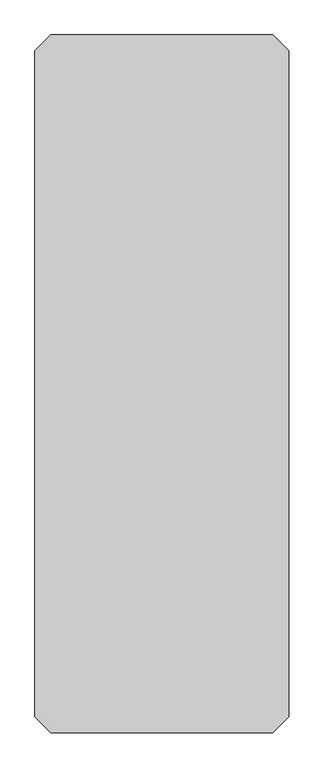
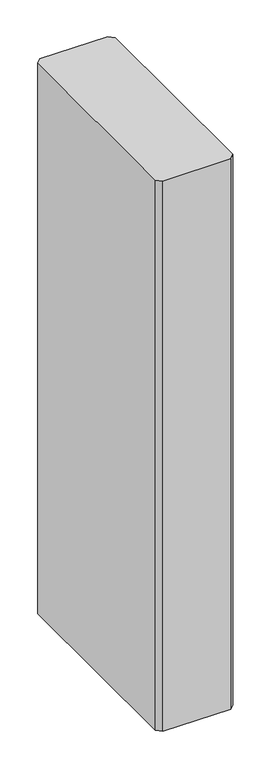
"""IFC4 building model written with IfcOpenShell, lengths in millimetres: column geometry, ENG - Diaphragm : ENG - Diaphragm."""

import ifcopenshell
import ifcopenshell.guid

model = None  # the IFC model being written
_history = None  # IfcOwnerHistory: only IFC2X3 demands one
_inside = {}  # id of a spatial element -> (the spatial element, [elements in it])
_under = {}  # id of a project, library or spatial element -> (it, [spatial elements below it])
_declared = {}  # id of a project -> (the project, [libraries it declares])
_typed = {}  # id of a type object -> (the type object, [elements of that type])
_made_of = {}  # id of a material, layer set ... -> (it, [elements and type objects made of it])


def new_model(schema):
    """Start an empty IFC model of exactly this schema.

    Asked for "IFC4X3", IfcOpenShell would pick the latest addendum, in which some entities
    have other attributes; the version numbers below select the first issue.
    IFC2X3 requires an IfcOwnerHistory on every rooted entity: one is made here for all.
    """
    global model, _history
    if schema == "IFC4X3":
        model = ifcopenshell.file(schema_version=(4, 3, 0, 0))
    else:
        model = ifcopenshell.file(schema=schema)
    _inside.clear()
    _under.clear()
    _declared.clear()
    _typed.clear()
    _made_of.clear()
    _history = None
    if model.schema == "IFC2X3":
        org = make("IfcOrganization", Name="unknown")
        user = make(
            "IfcPersonAndOrganization",
            ThePerson=make("IfcPerson", FamilyName="unknown"),
            TheOrganization=org,
        )
        app = make(
            "IfcApplication",
            ApplicationDeveloper=org,
            Version="unknown",
            ApplicationFullName="unknown",
            ApplicationIdentifier="unknown",
        )
        _history = make(
            "IfcOwnerHistory",
            OwningUser=user,
            OwningApplication=app,
            ChangeAction="ADDED",
            CreationDate=0,
        )
    return model


def make(cls, **values):
    """One entity of the class cls with the attributes given. An attribute that is None is left unset."""
    return model.create_entity(
        cls, **{name: value for name, value in values.items() if value is not None}
    )


def rooted(cls, **values):
    """An entity with a GlobalId (a new one), such as an element, a storey or a relation."""
    return make(cls, GlobalId=ifcopenshell.guid.new(), OwnerHistory=_history, **values)


def si_unit(unit_type, name, prefix=None):
    """IfcSIUnit, for example si_unit("LENGTHUNIT", "METRE", prefix="MILLI")."""
    return make("IfcSIUnit", UnitType=unit_type, Prefix=prefix, Name=name)


def assignment(units):
    """IfcUnitAssignment: the units of a project."""
    return None if units is None else make("IfcUnitAssignment", Units=units)


def point(xyz):
    """IfcCartesianPoint."""
    return None if xyz is None else make("IfcCartesianPoint", Coordinates=xyz)


def direction(xyz):
    """IfcDirection."""
    return None if xyz is None else make("IfcDirection", DirectionRatios=xyz)


def frame(location, z_axis=None, x_axis=None):
    """IfcAxis2Placement3D, a coordinate frame: its origin and axes. An axis left out is left unset."""
    return make(
        "IfcAxis2Placement3D",
        Location=point(location),
        Axis=direction(z_axis),
        RefDirection=direction(x_axis),
    )


def origin():
    """The frame at (0, 0, 0) with its axes left unset."""
    return frame((0.0, 0.0, 0.0))


def place(relative_to, where):
    """IfcLocalPlacement: puts the frame where relative to a parent placement (None: the world)."""
    return make(
        "IfcLocalPlacement", PlacementRelTo=relative_to, RelativePlacement=where
    )


def context(
    kind, dimensions, precision=None, world=None, true_north=None, identifier=None
):
    """IfcGeometricRepresentationContext, for example the 3D "Model" context."""
    return make(
        "IfcGeometricRepresentationContext",
        ContextIdentifier=identifier,
        ContextType=kind,
        CoordinateSpaceDimension=dimensions,
        Precision=precision,
        WorldCoordinateSystem=world,
        TrueNorth=true_north,
    )


def project(units=None, contexts=None):
    """IfcProject with its units and contexts."""
    return rooted(
        "IfcProject",
        Name="project",
        RepresentationContexts=contexts,
        UnitsInContext=assignment(units),
    )


def spatial(cls, under=None, at=None, **own):
    """A site, building, storey or space (cls), placed at a placement, below another one or the project."""
    s = rooted(cls, ObjectPlacement=at, **own)
    if under is not None:
        _under.setdefault(under.id(), (under, []))[1].append(s)
    return s


def polyline(points):
    """IfcPolyline through the points."""
    return make("IfcPolyline", Points=[point(p) for p in points])


def outline(outer, holes=None, kind="AREA"):
    """IfcArbitraryClosedProfileDef: a profile drawn as a closed curve; with holes, ...WithVoids."""
    if holes is None:
        return make("IfcArbitraryClosedProfileDef", ProfileType=kind, OuterCurve=outer)
    return make(
        "IfcArbitraryProfileDefWithVoids",
        ProfileType=kind,
        OuterCurve=outer,
        InnerCurves=holes,
    )


def extrude(swept, where, along, depth):
    """IfcExtrudedAreaSolid: the profile swept, set in the frame where, extruded along a direction by depth."""
    return make(
        "IfcExtrudedAreaSolid",
        SweptArea=swept,
        Position=where,
        ExtrudedDirection=direction(along),
        Depth=depth,
    )


def shape(context_of_items, identifier, shape_type, items):
    """IfcShapeRepresentation: the items that make up one representation, for example the "Body"."""
    return make(
        "IfcShapeRepresentation",
        ContextOfItems=context_of_items,
        RepresentationIdentifier=identifier,
        RepresentationType=shape_type,
        Items=items,
    )


def source(mapping_origin, context_of_items, identifier, shape_type, items):
    """IfcRepresentationMap: a shape defined once, which mapped items show again and again."""
    return make(
        "IfcRepresentationMap",
        MappingOrigin=mapping_origin,
        MappedRepresentation=shape(context_of_items, identifier, shape_type, items),
    )


def transform(
    local_origin,
    x_axis=None,
    y_axis=None,
    z_axis=None,
    scale=None,
    scale2=None,
    scale3=None,
    uniform=True,
):
    """IfcCartesianTransformationOperator3D, or its non-uniform kind. x_axis, y_axis, z_axis: its Axis1, 2, 3."""
    if uniform:
        return make(
            "IfcCartesianTransformationOperator3D",
            Axis1=direction(x_axis),
            Axis2=direction(y_axis),
            LocalOrigin=point(local_origin),
            Scale=scale,
            Axis3=direction(z_axis),
        )
    return make(
        "IfcCartesianTransformationOperator3DnonUniform",
        Axis1=direction(x_axis),
        Axis2=direction(y_axis),
        LocalOrigin=point(local_origin),
        Scale=scale,
        Axis3=direction(z_axis),
        Scale2=scale2,
        Scale3=scale3,
    )


def mapped(mapping_source, mapping_target):
    """IfcMappedItem: shows the shape of a source again, moved by a transform."""
    return make(
        "IfcMappedItem", MappingSource=mapping_source, MappingTarget=mapping_target
    )


def made_of(thing, what):
    """Note that an element or type object is made of a material, layer set ...; save() writes the relation."""
    if what is not None:
        _made_of.setdefault(what.id(), (what, []))[1].append(thing)
    return thing


def element(
    cls,
    number,
    at=None,
    inside=None,
    cuts=None,
    type_object=None,
    material=None,
    context=None,
    identifier="Body",
    shape_type=None,
    held_by="IfcProductDefinitionShape",
    body=None,
    shapes=None,
    **own,
):
    """One element of the class cls, such as IfcWall. Its Tag is "e" and its number.

    at: its placement. inside: the storey or other place that contains it. cuts: it is an
    opening in that element (IfcRelVoidsElement). A single representation is given by context,
    identifier, shape_type and body (its items); several are given by shapes. held_by: the class
    of the entity that holds the representations. save() writes the other relations.
    """
    e = rooted(cls, Tag="e%d" % number, ObjectPlacement=at, **own)
    if body is not None:
        shapes = [shape(context, identifier, shape_type, body)]
    if shapes is not None:
        e.Representation = make(held_by, Representations=shapes)
    if inside is not None:
        _inside.setdefault(inside.id(), (inside, []))[1].append(e)
    if cuts is not None:
        rooted(
            "IfcRelVoidsElement", RelatingBuildingElement=cuts, RelatedOpeningElement=e
        )
    if type_object is not None:
        _typed.setdefault(type_object.id(), (type_object, []))[1].append(e)
    return made_of(e, material)


def aggregate(whole, parts):
    """IfcRelAggregates: a whole, such as a stair, and the parts it consists of."""
    return rooted("IfcRelAggregates", RelatingObject=whole, RelatedObjects=parts)


def save(model, path):
    """Write the relations noted so far, then the file.

    IfcRelAggregates (storeys below a building ...), IfcRelContainedInSpatialStructure (elements
    in a storey), IfcRelDefinesByType, IfcRelAssociatesMaterial and IfcRelDeclares: one each for
    every whole, place, type object, material and project.
    """
    for whole, parts in _under.values():
        aggregate(whole, parts)
    for where, things in _inside.values():
        rooted(
            "IfcRelContainedInSpatialStructure",
            RelatedElements=things,
            RelatingStructure=where,
        )
    for kind, things in _typed.values():
        rooted("IfcRelDefinesByType", RelatedObjects=things, RelatingType=kind)
    for what, things in _made_of.values():
        rooted("IfcRelAssociatesMaterial", RelatedObjects=things, RelatingMaterial=what)
    for by, libraries in _declared.values():
        rooted("IfcRelDeclares", RelatingContext=by, RelatedDefinitions=libraries)
    model.write(path)


def column_70e239fd(model_context):
    return source(origin(), model_context, "Body", "SweptSolid", [
        extrude(outline(polyline([(350.0, -1100.0), (-350.0, -1100.0), (-400.0, -1050.0), (-400.0, 1050.0), (-350.0, 1100.0), (350.0, 1100.0), (400.0, 1050.0), (400.0, -1050.0), (350.0, -1100.0)])), frame((0.0, 0.0, -6000.0), z_axis=(0.0, 0.0, 1.0), x_axis=(1.0, 0.0, 0.0)), (0.0, 0.0, 1.0), 6000.0),
    ])


if __name__ == "__main__":
    model = new_model("IFC4")
    model_context = context("Model", 3, world=origin())
    ifc_project = project(units=[si_unit("LENGTHUNIT", "METRE", prefix="MILLI")], contexts=[model_context])
    site = spatial("IfcSite", under=ifc_project)
    building = spatial("IfcBuilding", under=site)
    placement = place(None, origin())
    column_shape = column_70e239fd(model_context)
    element("IfcColumn", 1, ObjectType="ENG - Diaphragm : ENG - Diaphragm", at=placement, inside=building, context=model_context, shape_type="MappedRepresentation", body=[
        mapped(column_shape, transform((0.0, 0.0, 0.0), x_axis=(1.0, 0.0, 0.0), y_axis=(0.0, 1.0, 0.0), z_axis=(0.0, 0.0, 1.0))),
    ])
    save(model, "model.ifc")
